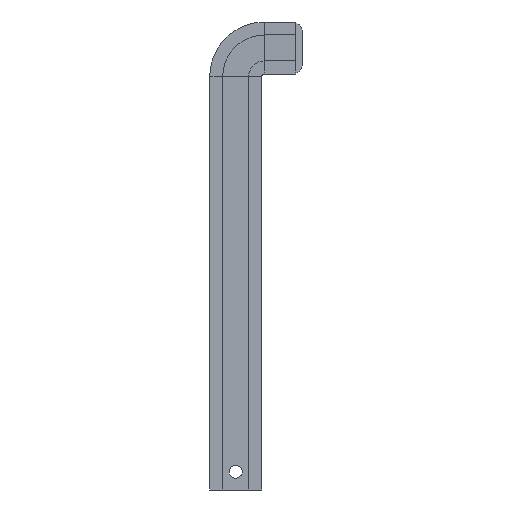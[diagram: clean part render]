
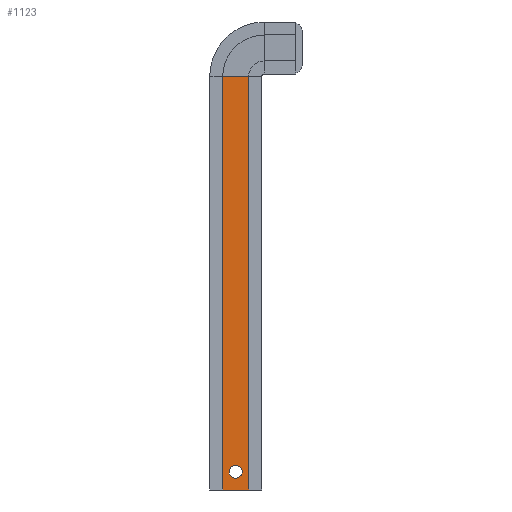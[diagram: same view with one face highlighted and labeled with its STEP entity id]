
A CAD part, front view. The second image highlights one B-rep face of the part: STEP entity #1123.
In plain terms, the highlighted planar face has unit normal (0, -1, 0).
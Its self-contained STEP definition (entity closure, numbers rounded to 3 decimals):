
#100 = ORIENTED_EDGE ( 'NONE', *, *, #299, .F. ) ;
#142 = LINE ( 'NONE', #1211, #291 ) ;
#143 = AXIS2_PLACEMENT_3D ( 'NONE', #287, #433, #1647 ) ;
#194 = CARTESIAN_POINT ( 'NONE',  ( 156.9, 0.637, -53.219 ) ) ;
#214 = VERTEX_POINT ( 'NONE', #551 ) ;
#244 = CARTESIAN_POINT ( 'NONE',  ( 161.9, 0.637, 98.781 ) ) ;
#281 = CARTESIAN_POINT ( 'NONE',  ( 159.4, 0.637, -53.219 ) ) ;
#286 = CIRCLE ( 'NONE', #143, 2.5 ) ;
#287 = CARTESIAN_POINT ( 'NONE',  ( 156.9, 0.637, -53.219 ) ) ;
#291 = VECTOR ( 'NONE', #1672, 1000. ) ;
#299 = EDGE_CURVE ( 'NONE', #1201, #214, #286, .T. ) ;
#328 = LINE ( 'NONE', #1676, #377 ) ;
#329 = EDGE_CURVE ( 'NONE', #1097, #1626, #328, .T. ) ;
#336 = EDGE_CURVE ( 'NONE', #214, #1201, #1505, .T. ) ;
#377 = VECTOR ( 'NONE', #760, 1000. ) ;
#432 = AXIS2_PLACEMENT_3D ( 'NONE', #194, #1143, #1434 ) ;
#433 = DIRECTION ( 'NONE',  ( 0., -1., 0. ) ) ;
#437 = CARTESIAN_POINT ( 'NONE',  ( 161.9, 0.637, -60.219 ) ) ;
#452 = CARTESIAN_POINT ( 'NONE',  ( 161.9, 0.637, -60.219 ) ) ;
#501 = DIRECTION ( 'NONE',  ( 1., 0., 0. ) ) ;
#516 = DIRECTION ( 'NONE',  ( 0., -1., 0. ) ) ;
#551 = CARTESIAN_POINT ( 'NONE',  ( 154.4, 0.637, -53.219 ) ) ;
#578 = CARTESIAN_POINT ( 'NONE',  ( 151.9, 0.637, 98.781 ) ) ;
#655 = CARTESIAN_POINT ( 'NONE',  ( 151.9, 0.637, -60.219 ) ) ;
#710 = AXIS2_PLACEMENT_3D ( 'NONE', #244, #516, #501 ) ;
#718 = ORIENTED_EDGE ( 'NONE', *, *, #1109, .T. ) ;
#760 = DIRECTION ( 'NONE',  ( 0., 0., -1. ) ) ;
#822 = VECTOR ( 'NONE', #1173, 1000. ) ;
#873 = ORIENTED_EDGE ( 'NONE', *, *, #1310, .F. ) ;
#923 = LINE ( 'NONE', #1195, #822 ) ;
#950 = ORIENTED_EDGE ( 'NONE', *, *, #1297, .T. ) ;
#1004 = CARTESIAN_POINT ( 'NONE',  ( 161.9, 0.637, 98.781 ) ) ;
#1097 = VERTEX_POINT ( 'NONE', #1004 ) ;
#1109 = EDGE_CURVE ( 'NONE', #1097, #1639, #923, .T. ) ;
#1123 = ADVANCED_FACE ( 'NONE', ( #1470, #1590 ), #1704, .T. ) ;
#1143 = DIRECTION ( 'NONE',  ( 0., -1., 0. ) ) ;
#1173 = DIRECTION ( 'NONE',  ( -1., 0., 0. ) ) ;
#1195 = CARTESIAN_POINT ( 'NONE',  ( 161.9, 0.637, 98.781 ) ) ;
#1201 = VERTEX_POINT ( 'NONE', #281 ) ;
#1211 = CARTESIAN_POINT ( 'NONE',  ( 151.9, 0.637, 98.781 ) ) ;
#1257 = DIRECTION ( 'NONE',  ( -1., 0., 0. ) ) ;
#1273 = LINE ( 'NONE', #452, #1335 ) ;
#1274 = VERTEX_POINT ( 'NONE', #655 ) ;
#1297 = EDGE_CURVE ( 'NONE', #1639, #1274, #142, .T. ) ;
#1310 = EDGE_CURVE ( 'NONE', #1626, #1274, #1273, .T. ) ;
#1335 = VECTOR ( 'NONE', #1257, 1000. ) ;
#1381 = ORIENTED_EDGE ( 'NONE', *, *, #329, .F. ) ;
#1434 = DIRECTION ( 'NONE',  ( 1., 0., 0. ) ) ;
#1435 = EDGE_LOOP ( 'NONE', ( #950, #873, #1381, #718 ) ) ;
#1470 = FACE_BOUND ( 'NONE', #1561, .T. ) ;
#1505 = CIRCLE ( 'NONE', #432, 2.5 ) ;
#1561 = EDGE_LOOP ( 'NONE', ( #1605, #100 ) ) ;
#1590 = FACE_OUTER_BOUND ( 'NONE', #1435, .T. ) ;
#1605 = ORIENTED_EDGE ( 'NONE', *, *, #336, .F. ) ;
#1626 = VERTEX_POINT ( 'NONE', #437 ) ;
#1639 = VERTEX_POINT ( 'NONE', #578 ) ;
#1647 = DIRECTION ( 'NONE',  ( 1., 0., 0. ) ) ;
#1672 = DIRECTION ( 'NONE',  ( 0., 0., -1. ) ) ;
#1676 = CARTESIAN_POINT ( 'NONE',  ( 161.9, 0.637, 98.781 ) ) ;
#1704 = PLANE ( 'NONE',  #710 ) ;
